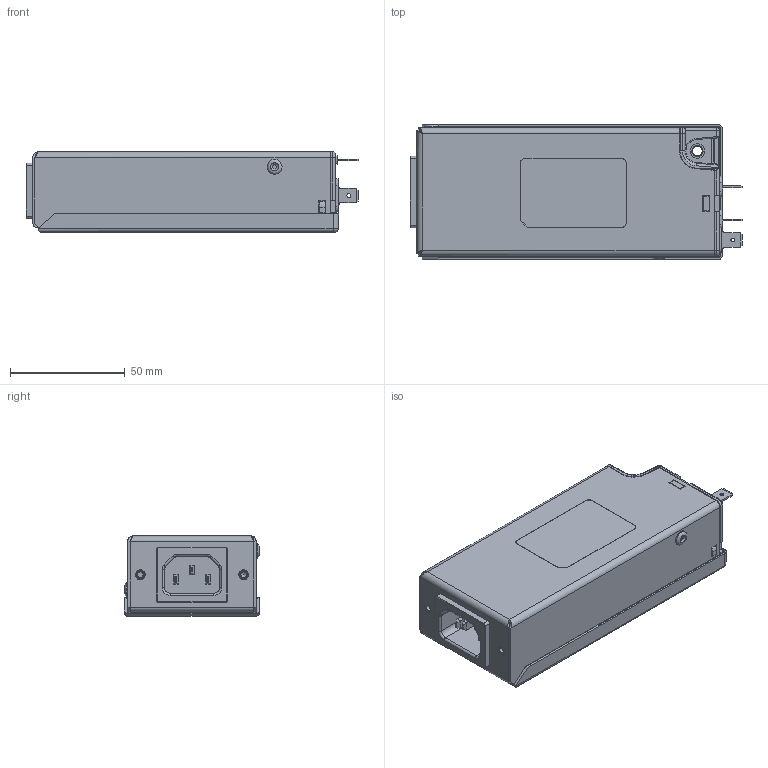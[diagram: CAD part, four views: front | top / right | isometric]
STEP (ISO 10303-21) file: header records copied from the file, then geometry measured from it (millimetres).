
FILE_DESCRIPTION(/* description */ (''),/* implementation_level */ '2;1');
FILE_NAME(/* name */ 'C:\Users\Christian.Ackermann\OneDrive - Schaffner EMV AG\Desktop\UMA_customerSTEP\FN2640-10_15-05.stp',/* time_stamp */ '2021-08-24T10:38:56+02:00',/* author */ ('Christian.Ackermann'),/* organization */ (''),/* preprocessor_version */ 'ST-DEVELOPER v18.1',/* originating_system */ 'Autodesk Inventor 2020',/* authorisation */ '');
FILE_SCHEMA (('AUTOMOTIVE_DESIGN { 1 0 10303 214 3 1 1 }'));
Length unit declared in the file: millimetre
Products named in the file (1): FN2640-10_15-05
Bounding box: 144.4 x 59 x 35.06 mm (x, y, z)
Volume: 247389.4 mm3; surface area: 40442.5 mm2
Topology: 1 solids, 1 shells, 1126 faces, 2827 edges, 1736 vertices
Faces by surface type: plane 525, cylinder 346, torus 93, bspline 81, cone 52, sphere 29
Full cylindrical faces by diameter (mm): 1.65 x3, 2 x2, 2.459 x2, 4.2 x1, 4.25 x2, 6.111 x1, 6.4 x2, 6.5 x2, 8.39 x2, 8.74 x3
Entity records: 36966 total; most frequent: CARTESIAN_POINT 8455, DIRECTION 5805, ORIENTED_EDGE 5648, EDGE_CURVE 2824, AXIS2_PLACEMENT_3D 2034, LINE 1737, VECTOR 1737, VERTEX_POINT 1736
